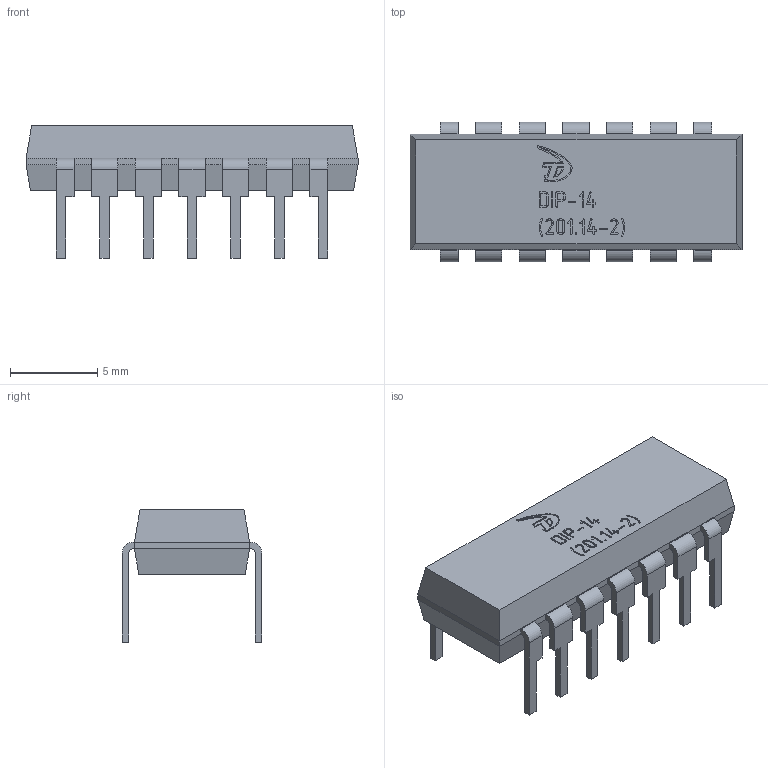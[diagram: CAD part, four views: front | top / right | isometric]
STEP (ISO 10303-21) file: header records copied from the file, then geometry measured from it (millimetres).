
FILE_DESCRIPTION(/* description */ (''),/* implementation_level */ '2;1');
FILE_NAME(/* name */ 'C:/Users/konst/OneDrive/Рабочий стол/Зд-модели/С маркировкой/DIP14 v1.step',/* time_stamp */ '2022-05-06T11:51:36+03:00',/* author */ (''),/* organization */ (''),/* preprocessor_version */ 'ST-DEVELOPER v18.1',/* originating_system */ 'Autodesk Translation Framework v10.14.0.1471',/* authorisation */ '');
FILE_SCHEMA (('AUTOMOTIVE_DESIGN { 1 0 10303 214 3 1 1 }'));
Length unit declared in the file: millimetre
Products named in the file (2): DIP14; DIP8
Assembly tree (1 placements, depth 2):
  DIP14
    DIP8
Bounding box: 19 x 8 x 7.56 mm (x, y, z)
Volume: 464.1 mm3; surface area: 631.9 mm2
Topology: 15 solids, 15 shells, 597 faces, 1624 edges, 1080 vertices
Faces by surface type: plane 308, bspline 263, cylinder 26
Entity records: 19308 total; most frequent: CARTESIAN_POINT 6699, ORIENTED_EDGE 3248, DIRECTION 1832, EDGE_CURVE 1624, VERTEX_POINT 1080, LINE 1046, VECTOR 1046, EDGE_LOOP 620
